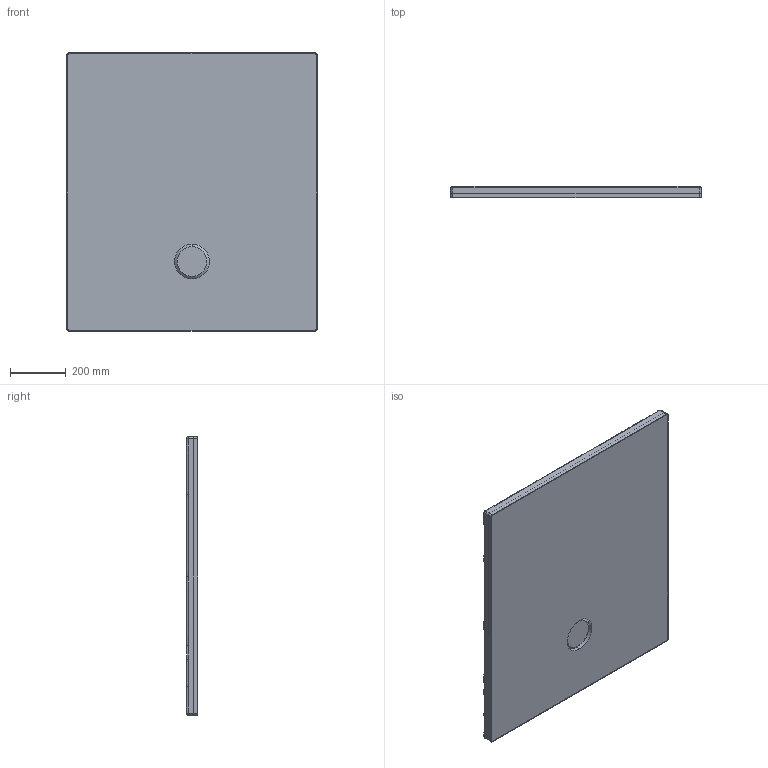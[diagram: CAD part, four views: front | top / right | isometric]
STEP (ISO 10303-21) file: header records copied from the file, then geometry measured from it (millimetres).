
FILE_DESCRIPTION((''),'2;1');
FILE_NAME('PLANEO100X90_22042019_ASM','2019-04-23T16:11:30',('grootj'),('Villeroy & Boch Wellness bv'),'CREO PARAMETRIC BY PTC INC, 2018020','CREO PARAMETRIC BY PTC INC, 2018020','');
FILE_SCHEMA(('CONFIG_CONTROL_DESIGN'));
Length unit declared in the file: millimetre
Products named in the file (4): COLMAR100X90_1-3DEGREE25072018; COVER-CLOSED07102016; PUR_PLANEO100X90-23042019; PLANEO100X90_22042019_ASM
Assembly tree (3 placements, depth 2):
  PLANEO100X90_22042019_ASM
    COLMAR100X90_1-3DEGREE25072018
    COVER-CLOSED07102016
    PUR_PLANEO100X90-23042019
Bounding box: 900 x 39.98 x 1000 mm (x, y, z)
Volume: 16446832.6 mm3; surface area: 3932578 mm2
Topology: 3 solids, 3 shells, 276 faces, 642 edges, 376 vertices
Faces by surface type: bspline 192, cylinder 38, plane 30, torus 12, cone 4
Entity records: 18232 total; most frequent: CARTESIAN_POINT 13132, ORIENTED_EDGE 1284, DIRECTION 644, EDGE_CURVE 642, VERTEX_POINT 376, B_SPLINE_CURVE_WITH_KNOTS 345, EDGE_LOOP 282, FACE_OUTER_BOUND 276
